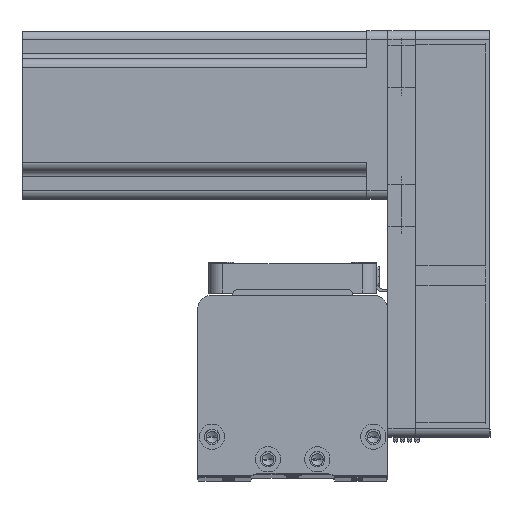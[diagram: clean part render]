
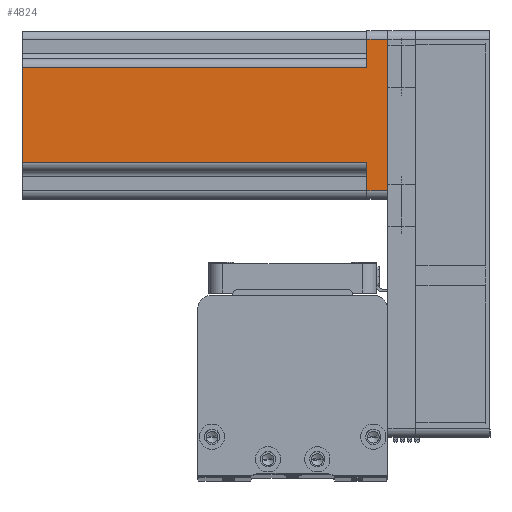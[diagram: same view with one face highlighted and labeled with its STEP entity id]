
A CAD part, top view. The second image highlights one B-rep face of the part: STEP entity #4824.
In plain terms, the highlighted planar face has unit normal (0, 0, 1) as drawn and (0, -1, 0) by its records, which use the part's own axes.
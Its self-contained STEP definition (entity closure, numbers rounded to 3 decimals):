
#200 = CARTESIAN_POINT ( 'NONE',  ( 30., -30., 130.7 ) ) ;
#1862 = DIRECTION ( 'NONE',  ( 0., 0., -1. ) ) ;
#1978 = DIRECTION ( 'NONE',  ( -1., 0., 0. ) ) ;
#2600 = VERTEX_POINT ( 'NONE', #33630 ) ;
#2889 = CARTESIAN_POINT ( 'NONE',  ( 27., -30., 0. ) ) ;
#3216 = CARTESIAN_POINT ( 'NONE',  ( 17., -30., 7.5 ) ) ;
#3906 = VERTEX_POINT ( 'NONE', #13716 ) ;
#4381 = LINE ( 'NONE', #200, #30769 ) ;
#4824 = ADVANCED_FACE ( 'NONE', ( #17961 ), #36726, .F. ) ;
#5828 = CARTESIAN_POINT ( 'NONE',  ( 30., -30., 0. ) ) ;
#6939 = LINE ( 'NONE', #32329, #16285 ) ;
#7213 = DIRECTION ( 'NONE',  ( 0., 0., 1. ) ) ;
#7402 = LINE ( 'NONE', #10624, #43571 ) ;
#9323 = CARTESIAN_POINT ( 'NONE',  ( 20., -30., 7.5 ) ) ;
#9359 = VERTEX_POINT ( 'NONE', #40748 ) ;
#9539 = VECTOR ( 'NONE', #30622, 1000. ) ;
#10449 = LINE ( 'NONE', #26409, #19827 ) ;
#10624 = CARTESIAN_POINT ( 'NONE',  ( -17., -30., 130.7 ) ) ;
#10741 = CARTESIAN_POINT ( 'NONE',  ( 27., -30., 130.7 ) ) ;
#11045 = ORIENTED_EDGE ( 'NONE', *, *, #41070, .T. ) ;
#11458 = CARTESIAN_POINT ( 'NONE',  ( -17., -30., 130.7 ) ) ;
#11549 = AXIS2_PLACEMENT_3D ( 'NONE', #43961, #23031, #1978 ) ;
#11741 = ORIENTED_EDGE ( 'NONE', *, *, #40830, .F. ) ;
#11792 = VERTEX_POINT ( 'NONE', #31835 ) ;
#12961 = CARTESIAN_POINT ( 'NONE',  ( 17., -30., 130.7 ) ) ;
#13716 = CARTESIAN_POINT ( 'NONE',  ( 17., -30., 130.7 ) ) ;
#14011 = LINE ( 'NONE', #9323, #41919 ) ;
#14164 = DIRECTION ( 'NONE',  ( 0., 0., -1. ) ) ;
#14490 = VERTEX_POINT ( 'NONE', #3216 ) ;
#16285 = VECTOR ( 'NONE', #35839, 1000. ) ;
#16480 = EDGE_CURVE ( 'NONE', #9359, #14490, #14011, .T. ) ;
#17621 = EDGE_CURVE ( 'NONE', #2600, #11792, #6939, .T. ) ;
#17961 = FACE_OUTER_BOUND ( 'NONE', #36568, .T. ) ;
#18233 = VERTEX_POINT ( 'NONE', #11458 ) ;
#18300 = ORIENTED_EDGE ( 'NONE', *, *, #40590, .T. ) ;
#19827 = VECTOR ( 'NONE', #1862, 1000. ) ;
#20013 = LINE ( 'NONE', #5828, #9539 ) ;
#22729 = CARTESIAN_POINT ( 'NONE',  ( -27., -30., 0. ) ) ;
#22732 = ORIENTED_EDGE ( 'NONE', *, *, #39470, .T. ) ;
#23031 = DIRECTION ( 'NONE',  ( 0., 1., 0. ) ) ;
#23468 = DIRECTION ( 'NONE',  ( -1., 0., 0. ) ) ;
#23507 = VECTOR ( 'NONE', #7213, 1000. ) ;
#23882 = ORIENTED_EDGE ( 'NONE', *, *, #43356, .T. ) ;
#26409 = CARTESIAN_POINT ( 'NONE',  ( -27., -30., 130.7 ) ) ;
#26532 = ORIENTED_EDGE ( 'NONE', *, *, #17621, .F. ) ;
#26784 = ORIENTED_EDGE ( 'NONE', *, *, #16480, .T. ) ;
#30622 = DIRECTION ( 'NONE',  ( 1., 0., 0. ) ) ;
#30769 = VECTOR ( 'NONE', #31765, 1000. ) ;
#31765 = DIRECTION ( 'NONE',  ( 1., 0., 0. ) ) ;
#31835 = CARTESIAN_POINT ( 'NONE',  ( -17., -30., 7.5 ) ) ;
#32329 = CARTESIAN_POINT ( 'NONE',  ( -20., -30., 7.5 ) ) ;
#32772 = LINE ( 'NONE', #10741, #23507 ) ;
#33630 = CARTESIAN_POINT ( 'NONE',  ( -27., -30., 7.5 ) ) ;
#35839 = DIRECTION ( 'NONE',  ( 1., 0., 0. ) ) ;
#36568 = EDGE_LOOP ( 'NONE', ( #11741, #22732, #26532, #11045, #23882, #38833, #26784, #18300 ) ) ;
#36726 = PLANE ( 'NONE',  #11549 ) ;
#36748 = LINE ( 'NONE', #12961, #43906 ) ;
#37404 = DIRECTION ( 'NONE',  ( 0., 0., 1. ) ) ;
#38325 = EDGE_CURVE ( 'NONE', #42979, #9359, #32772, .T. ) ;
#38833 = ORIENTED_EDGE ( 'NONE', *, *, #38325, .T. ) ;
#39470 = EDGE_CURVE ( 'NONE', #18233, #11792, #7402, .T. ) ;
#40590 = EDGE_CURVE ( 'NONE', #14490, #3906, #36748, .T. ) ;
#40748 = CARTESIAN_POINT ( 'NONE',  ( 27., -30., 7.5 ) ) ;
#40830 = EDGE_CURVE ( 'NONE', #18233, #3906, #4381, .T. ) ;
#41070 = EDGE_CURVE ( 'NONE', #2600, #44932, #10449, .T. ) ;
#41919 = VECTOR ( 'NONE', #23468, 1000. ) ;
#42979 = VERTEX_POINT ( 'NONE', #2889 ) ;
#43356 = EDGE_CURVE ( 'NONE', #44932, #42979, #20013, .T. ) ;
#43571 = VECTOR ( 'NONE', #14164, 1000. ) ;
#43906 = VECTOR ( 'NONE', #37404, 1000. ) ;
#43961 = CARTESIAN_POINT ( 'NONE',  ( 30., -30., 130.7 ) ) ;
#44932 = VERTEX_POINT ( 'NONE', #22729 ) ;
